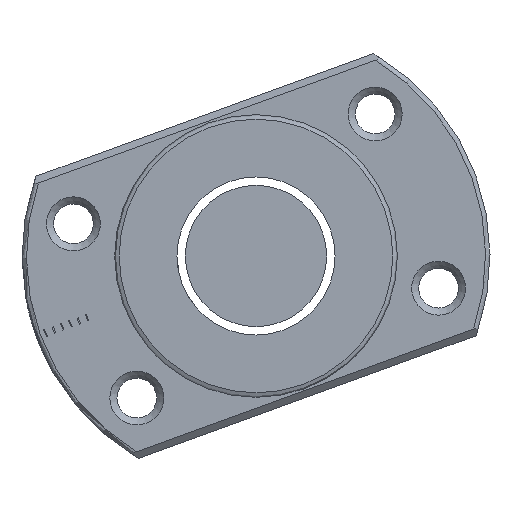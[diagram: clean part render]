
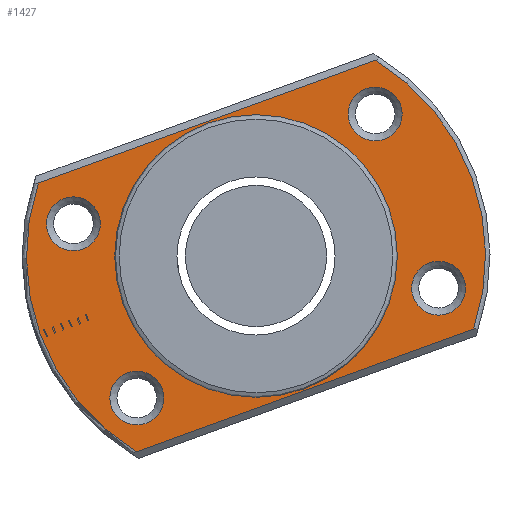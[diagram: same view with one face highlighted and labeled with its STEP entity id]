
A CAD part, left-side view. The second image highlights one B-rep face of the part: STEP entity #1427.
In plain terms, the highlighted planar face has unit normal (-1, 0, 0).
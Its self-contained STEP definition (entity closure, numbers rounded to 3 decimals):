
#5 = AXIS2_PLACEMENT_3D ( 'NONE', #1449, #983, #1225 ) ;
#8 = ORIENTED_EDGE ( 'NONE', *, *, #2820, .T. ) ;
#15 = DIRECTION ( 'NONE',  ( 0., 0., 1. ) ) ;
#24 = VERTEX_POINT ( 'NONE', #2030 ) ;
#44 = EDGE_CURVE ( 'NONE', #1077, #1303, #1715, .T. ) ;
#69 = EDGE_LOOP ( 'NONE', ( #1294, #1342, #8, #2783 ) ) ;
#83 = DIRECTION ( 'NONE',  ( 1., 0., 0. ) ) ;
#106 = VERTEX_POINT ( 'NONE', #787 ) ;
#114 = FACE_BOUND ( 'NONE', #2465, .T. ) ;
#190 = ORIENTED_EDGE ( 'NONE', *, *, #2611, .T. ) ;
#211 = DIRECTION ( 'NONE',  ( 0., 0.94, -0.342 ) ) ;
#257 = DIRECTION ( 'NONE',  ( 1., 0., 0. ) ) ;
#259 = CARTESIAN_POINT ( 'NONE',  ( -32.4, 13.569, -22.178 ) ) ;
#297 = EDGE_CURVE ( 'NONE', #1303, #2228, #1603, .T. ) ;
#331 = DIRECTION ( 'NONE',  ( 0., 0., 1. ) ) ;
#365 = CARTESIAN_POINT ( 'NONE',  ( -32.4, 26.5, 0. ) ) ;
#447 = CARTESIAN_POINT ( 'NONE',  ( -32.4, 17.859, -23.74 ) ) ;
#525 = CARTESIAN_POINT ( 'NONE',  ( -32.4, 13.499, -16.087 ) ) ;
#547 = EDGE_CURVE ( 'NONE', #2899, #2899, #1861, .T. ) ;
#576 = CARTESIAN_POINT ( 'NONE',  ( -32.4, 0., 0. ) ) ;
#578 = PLANE ( 'NONE',  #1233 ) ;
#609 = ORIENTED_EDGE ( 'NONE', *, *, #547, .T. ) ;
#624 = ORIENTED_EDGE ( 'NONE', *, *, #1404, .T. ) ;
#742 = CARTESIAN_POINT ( 'NONE',  ( -32.4, 24.65, 8.268 ) ) ;
#744 = EDGE_CURVE ( 'NONE', #106, #106, #2934, .T. ) ;
#746 = CIRCLE ( 'NONE', #1858, 3.05 ) ;
#762 = DIRECTION ( 'NONE',  ( 0., 0., 1. ) ) ;
#787 = CARTESIAN_POINT ( 'NONE',  ( -32.4, 0., -16. ) ) ;
#943 = AXIS2_PLACEMENT_3D ( 'NONE', #1486, #1455, #331 ) ;
#964 = DIRECTION ( 'NONE',  ( 0., 0., -1. ) ) ;
#983 = DIRECTION ( 'NONE',  ( -1., 0., 0. ) ) ;
#1000 = EDGE_CURVE ( 'NONE', #2228, #24, #1232, .T. ) ;
#1069 = EDGE_LOOP ( 'NONE', ( #2493 ) ) ;
#1077 = VERTEX_POINT ( 'NONE', #742 ) ;
#1108 = LINE ( 'NONE', #2507, #1766 ) ;
#1179 = AXIS2_PLACEMENT_3D ( 'NONE', #1380, #1405, #2111 ) ;
#1225 = DIRECTION ( 'NONE',  ( 0., 0., 1. ) ) ;
#1232 = CIRCLE ( 'NONE', #5, 26. ) ;
#1233 = AXIS2_PLACEMENT_3D ( 'NONE', #365, #1293, #1473 ) ;
#1235 = FACE_BOUND ( 'NONE', #1069, .T. ) ;
#1236 = EDGE_LOOP ( 'NONE', ( #624 ) ) ;
#1250 = FACE_BOUND ( 'NONE', #1236, .T. ) ;
#1270 = VERTEX_POINT ( 'NONE', #2200 ) ;
#1293 = DIRECTION ( 'NONE',  ( -1., 0., 0. ) ) ;
#1294 = ORIENTED_EDGE ( 'NONE', *, *, #297, .T. ) ;
#1303 = VERTEX_POINT ( 'NONE', #259 ) ;
#1326 = CIRCLE ( 'NONE', #943, 3.05 ) ;
#1331 = AXIS2_PLACEMENT_3D ( 'NONE', #576, #1765, #964 ) ;
#1342 = ORIENTED_EDGE ( 'NONE', *, *, #1000, .T. ) ;
#1380 = CARTESIAN_POINT ( 'NONE',  ( -32.4, 0., 0. ) ) ;
#1404 = EDGE_CURVE ( 'NONE', #1270, #1270, #1326, .T. ) ;
#1405 = DIRECTION ( 'NONE',  ( -1., 0., 0. ) ) ;
#1427 = ADVANCED_FACE ( 'NONE', ( #114, #2907, #2614, #1250, #1235, #2453 ), #578, .T. ) ;
#1449 = CARTESIAN_POINT ( 'NONE',  ( -32.4, 0., 0. ) ) ;
#1455 = DIRECTION ( 'NONE',  ( 1., 0., 0. ) ) ;
#1473 = DIRECTION ( 'NONE',  ( 0., 0., 1. ) ) ;
#1486 = CARTESIAN_POINT ( 'NONE',  ( -32.4, 20.681, 3.647 ) ) ;
#1507 = EDGE_CURVE ( 'NONE', #1572, #1572, #2877, .T. ) ;
#1572 = VERTEX_POINT ( 'NONE', #2990 ) ;
#1603 = LINE ( 'NONE', #447, #2206 ) ;
#1668 = DIRECTION ( 'NONE',  ( 1., 0., 0. ) ) ;
#1694 = CARTESIAN_POINT ( 'NONE',  ( -32.4, -13.499, 19.137 ) ) ;
#1715 = CIRCLE ( 'NONE', #1179, 26. ) ;
#1765 = DIRECTION ( 'NONE',  ( 1., 0., 0. ) ) ;
#1766 = VECTOR ( 'NONE', #211, 1000. ) ;
#1805 = CARTESIAN_POINT ( 'NONE',  ( -32.4, 13.499, -13.037 ) ) ;
#1858 = AXIS2_PLACEMENT_3D ( 'NONE', #525, #1668, #762 ) ;
#1861 = CIRCLE ( 'NONE', #2450, 3.05 ) ;
#1994 = EDGE_LOOP ( 'NONE', ( #609 ) ) ;
#2030 = CARTESIAN_POINT ( 'NONE',  ( -32.4, -13.569, 22.178 ) ) ;
#2107 = CARTESIAN_POINT ( 'NONE',  ( -32.4, -13.499, 16.087 ) ) ;
#2111 = DIRECTION ( 'NONE',  ( 0., 0., 1. ) ) ;
#2178 = CARTESIAN_POINT ( 'NONE',  ( -32.4, -20.681, -3.647 ) ) ;
#2200 = CARTESIAN_POINT ( 'NONE',  ( -32.4, 20.681, 6.697 ) ) ;
#2206 = VECTOR ( 'NONE', #2314, 1000. ) ;
#2228 = VERTEX_POINT ( 'NONE', #2669 ) ;
#2272 = ORIENTED_EDGE ( 'NONE', *, *, #1507, .T. ) ;
#2314 = DIRECTION ( 'NONE',  ( 0., -0.94, 0.342 ) ) ;
#2450 = AXIS2_PLACEMENT_3D ( 'NONE', #2107, #257, #15 ) ;
#2453 = FACE_OUTER_BOUND ( 'NONE', #69, .T. ) ;
#2465 = EDGE_LOOP ( 'NONE', ( #190 ) ) ;
#2493 = ORIENTED_EDGE ( 'NONE', *, *, #744, .T. ) ;
#2507 = CARTESIAN_POINT ( 'NONE',  ( -32.4, 28.941, 6.706 ) ) ;
#2611 = EDGE_CURVE ( 'NONE', #2721, #2721, #746, .T. ) ;
#2614 = FACE_BOUND ( 'NONE', #1994, .T. ) ;
#2644 = AXIS2_PLACEMENT_3D ( 'NONE', #2178, #83, #2875 ) ;
#2669 = CARTESIAN_POINT ( 'NONE',  ( -32.4, -24.65, -8.268 ) ) ;
#2721 = VERTEX_POINT ( 'NONE', #1805 ) ;
#2783 = ORIENTED_EDGE ( 'NONE', *, *, #44, .T. ) ;
#2820 = EDGE_CURVE ( 'NONE', #24, #1077, #1108, .T. ) ;
#2875 = DIRECTION ( 'NONE',  ( 0., 0., 1. ) ) ;
#2876 = EDGE_LOOP ( 'NONE', ( #2272 ) ) ;
#2877 = CIRCLE ( 'NONE', #2644, 3.05 ) ;
#2899 = VERTEX_POINT ( 'NONE', #1694 ) ;
#2907 = FACE_BOUND ( 'NONE', #2876, .T. ) ;
#2934 = CIRCLE ( 'NONE', #1331, 16. ) ;
#2990 = CARTESIAN_POINT ( 'NONE',  ( -32.4, -20.681, -0.597 ) ) ;
